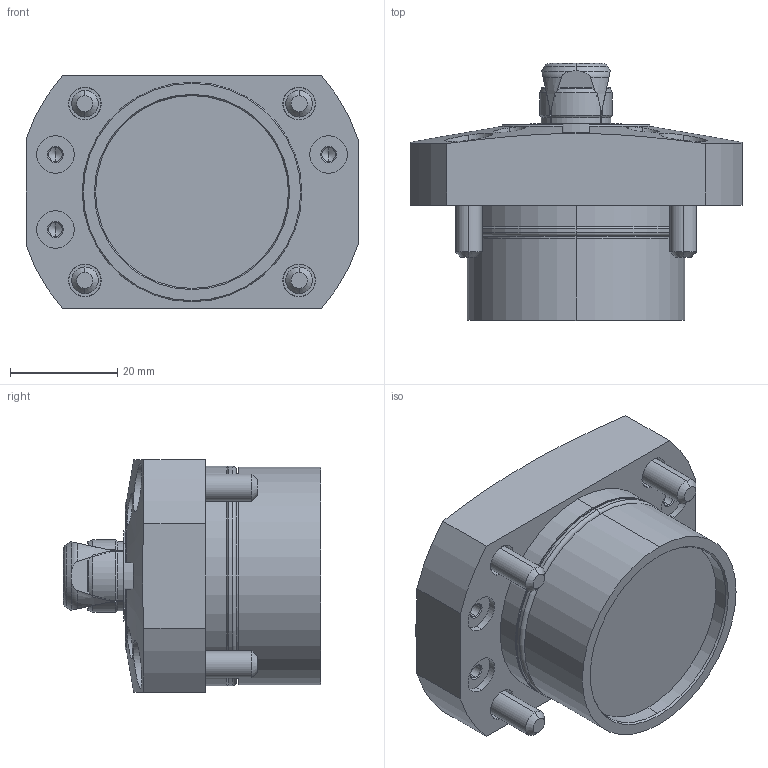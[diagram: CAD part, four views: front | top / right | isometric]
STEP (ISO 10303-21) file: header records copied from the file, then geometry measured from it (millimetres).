
FILE_DESCRIPTION (( 'STEP AP203' ), '1' );
FILE_NAME ('SFH2140.STEP', '2010-11-03T23:18:02', ( ' ' ), ( ' ' ), 'SwSTEP 2.0', 'SolidWorks 2010', '' );
FILE_SCHEMA (( 'CONFIG_CONTROL_DESIGN' ));
Length unit declared in the file: millimetre
Products named in the file (7): SFH2140; 6妏寠晅无倌_M3_10; SFH2140_套菁轤礁诎蔬晅; SFH2_钾堇轤O剌皋晅; φ14_ｽﾘｰﾌﾞ; 冇14_郫霓; 6妏寠晅无倌_M5_16
Assembly tree (12 placements, depth 2):
  SFH2140
    φ14_ｽﾘｰﾌﾞ
    冇14_郫霓
    SFH2_钾堇轤O剌皋晅
    SFH2140_套菁轤礁诎蔬晅
    6妏寠晅无倌_M3_10  x4
    6妏寠晅无倌_M5_16  x4
Bounding box: 62 x 48 x 43.5 mm (x, y, z)
Volume: 59791.6 mm3; surface area: 21958.6 mm2
Topology: 16 solids, 16 shells, 488 faces, 1003 edges, 558 vertices
Faces by surface type: plane 191, cone 156, cylinder 122, torus 19
Entity records: 9983 total; most frequent: CARTESIAN_POINT 2376, DIRECTION 1482, ORIENTED_EDGE 1334, EDGE_CURVE 667, AXIS2_PLACEMENT_3D 612, VERTEX_POINT 408, EDGE_LOOP 343, ADVANCED_FACE 302
